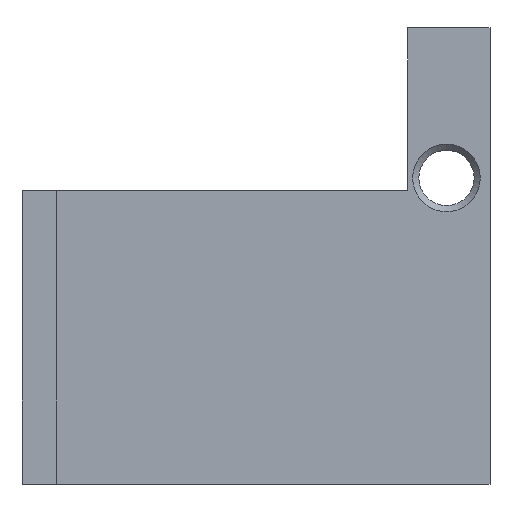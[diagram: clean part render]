
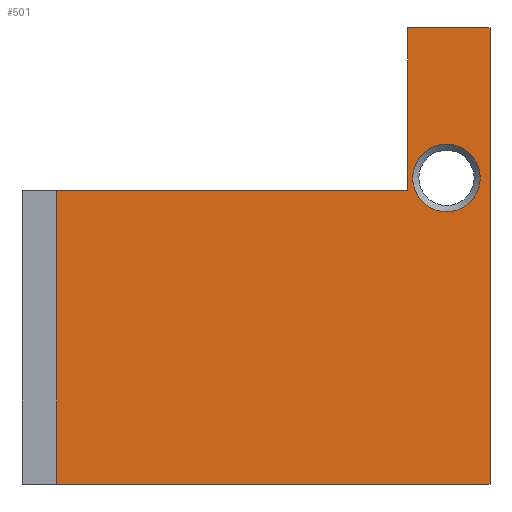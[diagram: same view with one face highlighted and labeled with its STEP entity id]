
A CAD part, left-side view. The second image highlights one B-rep face of the part: STEP entity #501.
In plain terms, the highlighted planar face has unit normal (-1, 0, 0).
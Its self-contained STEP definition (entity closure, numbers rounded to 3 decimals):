
#17=FACE_BOUND('',#74,.T.);
#19=PLANE('',#545);
#46=FACE_OUTER_BOUND('',#73,.T.);
#73=EDGE_LOOP('',(#359,#360,#361,#362,#363,#364));
#74=EDGE_LOOP('',(#365));
#102=LINE('',#732,#161);
#103=LINE('',#734,#162);
#104=LINE('',#736,#163);
#105=LINE('',#738,#164);
#106=LINE('',#740,#165);
#107=LINE('',#741,#166);
#161=VECTOR('',#595,10.);
#162=VECTOR('',#596,10.);
#163=VECTOR('',#597,10.);
#164=VECTOR('',#598,10.);
#165=VECTOR('',#599,10.);
#166=VECTOR('',#600,10.);
#219=CIRCLE('',#542,1.375);
#231=VERTEX_POINT('',#722);
#233=VERTEX_POINT('',#730);
#234=VERTEX_POINT('',#731);
#235=VERTEX_POINT('',#733);
#236=VERTEX_POINT('',#735);
#237=VERTEX_POINT('',#737);
#238=VERTEX_POINT('',#739);
#280=EDGE_CURVE('',#231,#231,#219,.T.);
#283=EDGE_CURVE('',#233,#234,#102,.T.);
#284=EDGE_CURVE('',#234,#235,#103,.T.);
#285=EDGE_CURVE('',#236,#235,#104,.T.);
#286=EDGE_CURVE('',#237,#236,#105,.T.);
#287=EDGE_CURVE('',#238,#237,#106,.T.);
#288=EDGE_CURVE('',#233,#238,#107,.T.);
#359=ORIENTED_EDGE('',*,*,#283,.T.);
#360=ORIENTED_EDGE('',*,*,#284,.T.);
#361=ORIENTED_EDGE('',*,*,#285,.F.);
#362=ORIENTED_EDGE('',*,*,#286,.F.);
#363=ORIENTED_EDGE('',*,*,#287,.F.);
#364=ORIENTED_EDGE('',*,*,#288,.F.);
#365=ORIENTED_EDGE('',*,*,#280,.F.);
#501=ADVANCED_FACE('',(#46,#17),#19,.T.);
#542=AXIS2_PLACEMENT_3D('',#724,#586,#587);
#545=AXIS2_PLACEMENT_3D('',#729,#593,#594);
#586=DIRECTION('center_axis',(-1.,0.,0.));
#587=DIRECTION('ref_axis',(0.,0.,-1.));
#593=DIRECTION('center_axis',(-1.,0.,0.));
#594=DIRECTION('ref_axis',(0.,1.,0.));
#595=DIRECTION('',(0.,1.,0.));
#596=DIRECTION('',(0.,0.,-1.));
#597=DIRECTION('',(0.,1.,0.));
#598=DIRECTION('',(0.,0.,-1.));
#599=DIRECTION('',(0.,-1.,0.));
#600=DIRECTION('',(0.,0.,1.));
#722=CARTESIAN_POINT('',(-9.525,-13.962,-44.261));
#724=CARTESIAN_POINT('Origin',(-9.525,-13.962,-45.636));
#729=CARTESIAN_POINT('Origin',(-9.525,-14.192,-46.152));
#730=CARTESIAN_POINT('',(-9.525,-12.389,-46.152));
#731=CARTESIAN_POINT('',(-9.525,1.88,-46.152));
#732=CARTESIAN_POINT('',(-9.525,-8.684,-46.152));
#733=CARTESIAN_POINT('',(-9.525,1.88,-58.09));
#734=CARTESIAN_POINT('',(-9.525,1.88,-46.152));
#735=CARTESIAN_POINT('',(-9.525,-15.732,-58.09));
#736=CARTESIAN_POINT('',(-9.525,-14.192,-58.09));
#737=CARTESIAN_POINT('',(-9.525,-15.732,-39.532));
#738=CARTESIAN_POINT('',(-9.525,-15.732,-47.481));
#739=CARTESIAN_POINT('',(-9.525,-12.389,-39.532));
#740=CARTESIAN_POINT('',(-9.525,-6.186,-39.532));
#741=CARTESIAN_POINT('',(-9.525,-12.389,-47.481));
